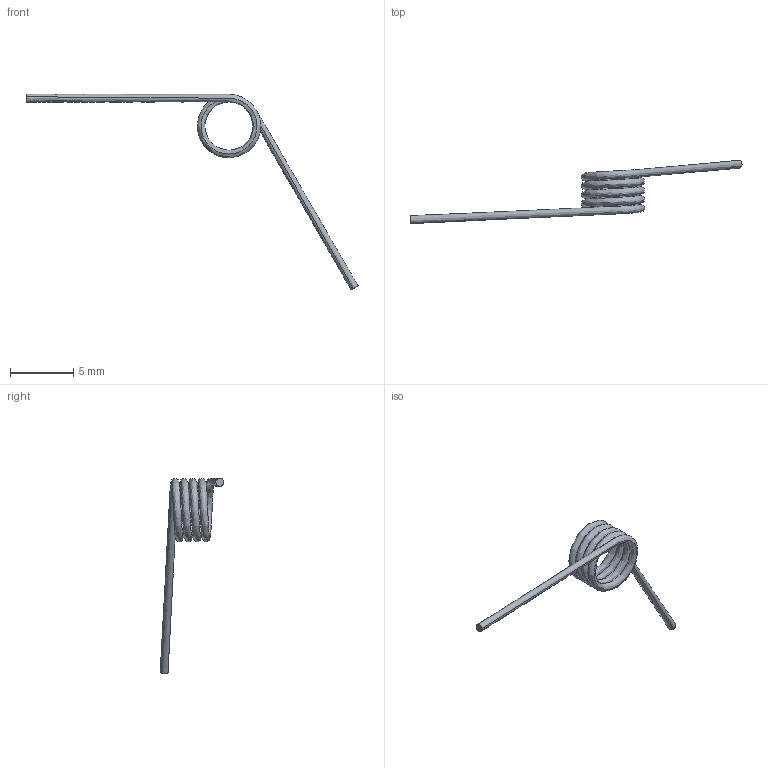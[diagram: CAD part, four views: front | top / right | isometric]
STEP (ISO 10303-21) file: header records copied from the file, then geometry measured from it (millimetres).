
FILE_DESCRIPTION (( 'STEP AP203' ), '1' );
FILE_NAME ('0.6_5_4_120.STEP', '2024-07-06T14:33:35', ( '' ), ( '' ), 'SwSTEP 2.0', 'SolidWorks 2020', '' );
FILE_SCHEMA (( 'CONFIG_CONTROL_DESIGN' ));
Length unit declared in the file: millimetre
Products named in the file (1): 0.6_5_4_120
Bounding box: 26.17 x 5.02 x 15.42 mm (x, y, z)
Volume: 26 mm3; surface area: 172.3 mm2
Topology: 1 solids, 1 shells, 4 faces, 6 edges, 4 vertices
Faces by surface type: bspline 2, plane 2
Entity records: 1057 total; most frequent: CARTESIAN_POINT 927, ORIENTED_EDGE 12, PERSON_AND_ORGANIZATION 8, DIRECTION 6, EDGE_CURVE 6, CALENDAR_DATE 5, PERSON_AND_ORGANIZATION_ROLE 5, LOCAL_TIME 5
